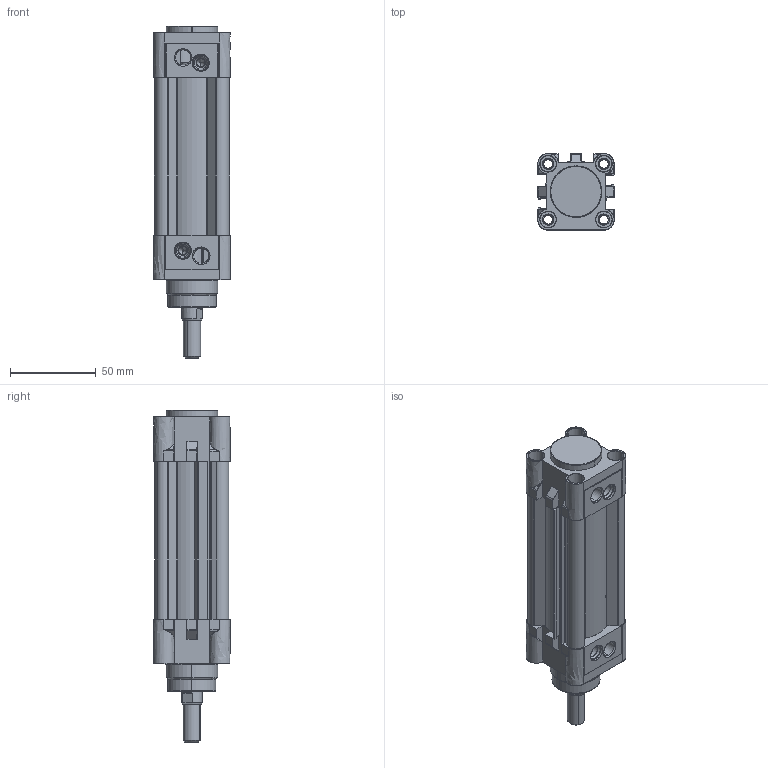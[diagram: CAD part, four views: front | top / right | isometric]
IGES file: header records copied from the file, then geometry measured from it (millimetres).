
Start section: SolidWorks IGES file using analytic representation for surfaces
Global section: file name: D:\ARICA 3D 禽Z軲LER\3D IGES\KDNT\KDNT32\KDNT32X50CYLINDER.IGS,1; native system: 5HSolidWorks 2013; preprocessor: SolidWorks 2013; author: user; date: 150306.131114; units: millimetre
Bounding box: 44.45 x 44.65 x 193.5 mm (x, y, z)
Surface area: 81571.4 mm2 (no closed solid volume)
Topology: 0 solids, 0 shells, 700 faces, 10096 edges, 10054 vertices
Faces by surface type: revolution 393, bspline 307
